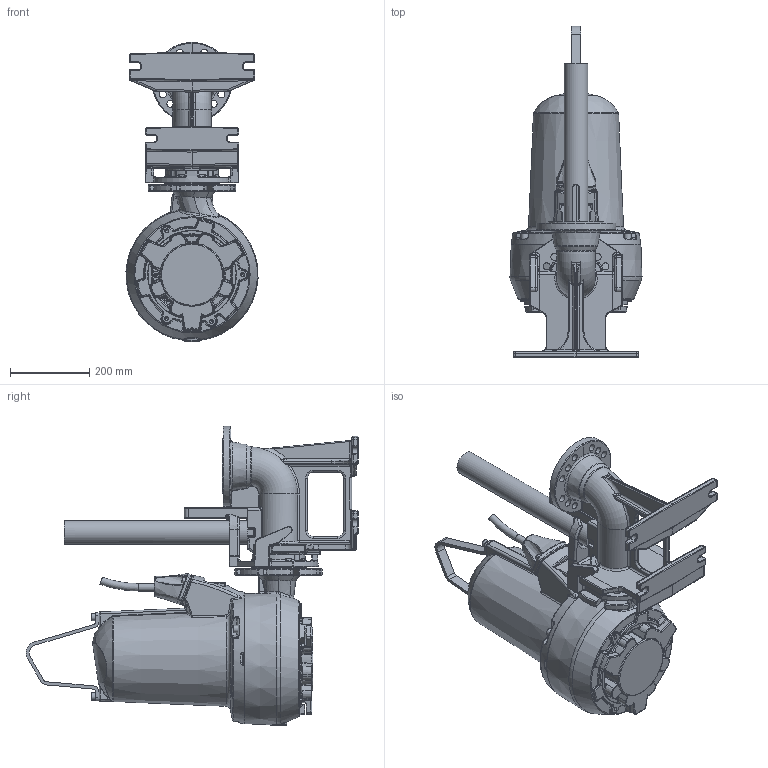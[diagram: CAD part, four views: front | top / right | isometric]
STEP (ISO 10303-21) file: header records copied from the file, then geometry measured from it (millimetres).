
FILE_DESCRIPTION (( 'STEP AP203' ), '1' );
FILE_NAME ('XFP80E-CB1_PE2A_Wet_2Inch Rail-.step', '2024-01-16T15:55:49', ( '' ), ( '' ), 'SwSTEP 2.0', 'SolidWorks 2017', '' );
FILE_SCHEMA (( 'CONFIG_CONTROL_DESIGN' ));
Products named in the file (2): XFP80E-CB1_PE2A_Wet_2Inch Rail-
Bounding box: 332.54 x 835.93 x 753 mm (x, y, z)
Volume: 37497892.2 mm3; surface area: 1499520.2 mm2
Topology: 13 solids, 14 shells, 2890 faces, 7007 edges, 4020 vertices
Faces by surface type: bspline 1073, cylinder 764, plane 559, torus 303, cone 100, sphere 91
Full cylindrical faces by diameter (mm): 6 x1, 6.8 x4, 8 x8, 8.5 x6, 9 x2, 10 x4, 10.2 x5, 12 x10, 12.5 x2, 13 x7, 15 x2, 18 x29, 18.7 x1, 50 x1, 60 x1, 62 x1, 133 x1, 222 x1
Entity records: 133348 total; most frequent: CARTESIAN_POINT 76245, ORIENTED_EDGE 13252, DIRECTION 9919, EDGE_CURVE 6626, AXIS2_PLACEMENT_3D 4070, VERTEX_POINT 3960, EDGE_LOOP 3150, FACE_OUTER_BOUND 3005
